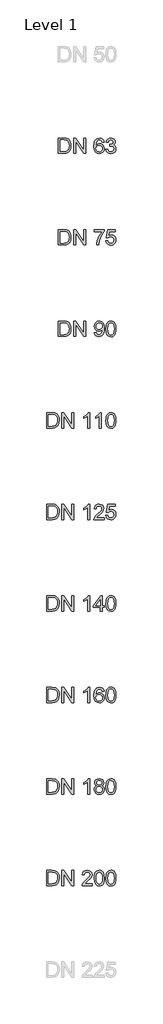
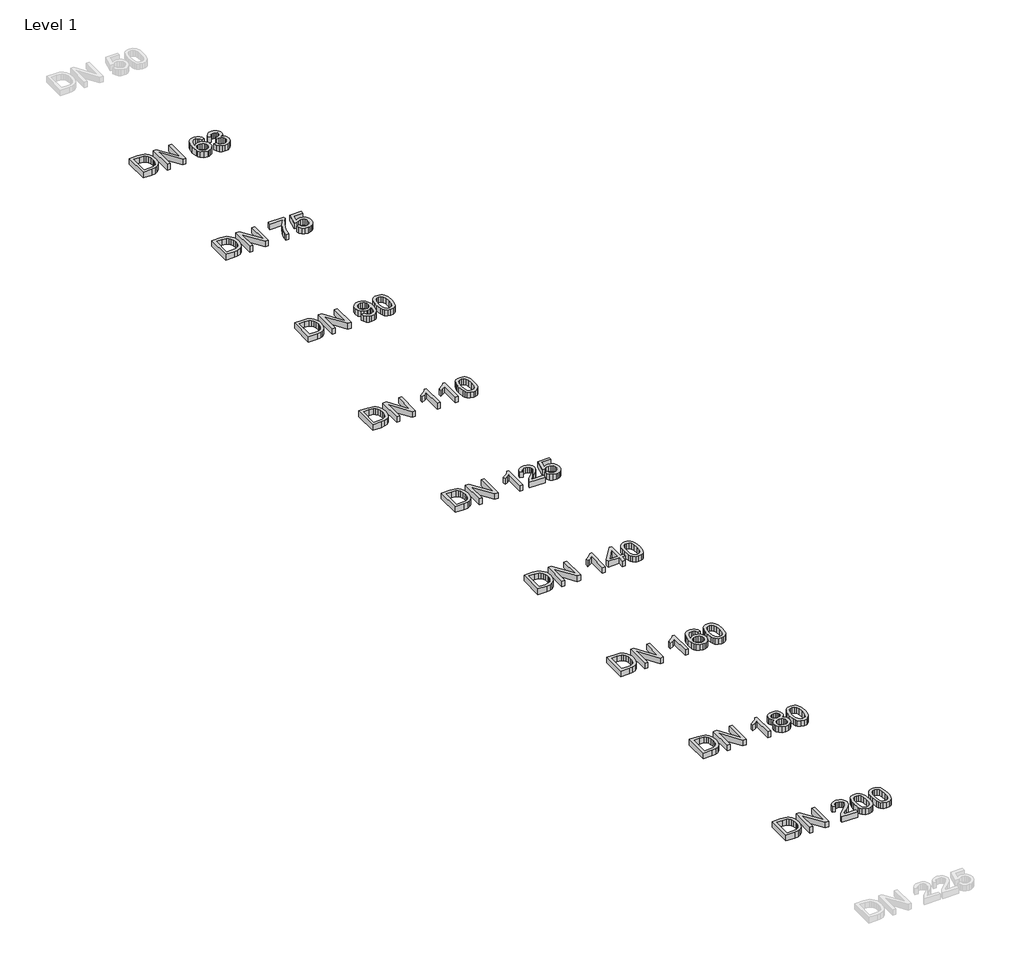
# One storey, part 12 of 26: 9 proxies.
"""IFC4 building model written with IfcOpenShell, lengths in millimetres."""

from ifc_helpers import new_model, si_unit, origin, origin_with_axes, place, context, project, spatial, polyline, outline, extrude, element, save

model = new_model("IFC4")

# Units and contexts
model_context = context("Model", 3, world=origin())
ifc_project = project(units=[si_unit("LENGTHUNIT", "METRE", prefix="MILLI")], contexts=[model_context])

# Site, building, storey
site = spatial("IfcSite", under=ifc_project)
building = spatial("IfcBuilding", under=site)
storey = spatial("IfcBuildingStorey", under=building, Name="Level 1", Elevation=0.0)

# Proxies
placement = place(None, origin())
element("IfcBuildingElementProxy", 1, Name="200mm Arial", ObjectType="200mm Arial", at=placement, inside=storey, context=model_context, shape_type="SweptSolid", body=[
    extrude(outline(polyline([(-19491.3116028, -49213.949573), (-19491.3116028, -49013.0369527), (-19422.0026349, -49013.0369527), (-19386.1464031, -49015.9309577), (-19370.1312736, -49021.5105013), (-19356.6177416, -49030.302881), (-19342.724065, -49045.606772), (-19332.8280393, -49064.6385338), (-19326.9051392, -49087.0302846), (-19324.9308391, -49112.4141423), (-19330.2773908, -49152.9547382), (-19344.0116519, -49182.2136195), (-19362.3567008, -49200.436041), (-19386.3671323, -49210.5160077), (-19418.6671715, -49213.949573), (-19491.3116028, -49213.949573)]), holes=[polyline([(-19466.1975253, -49188.8354954), (-19421.7573803, -49188.8354954), (-19389.4328156, -49185.2057264), (-19370.7934612, -49174.9540815), (-19362.0685265, -49164.0831685), (-19355.5140957, -49150.0116822), (-19351.4122114, -49132.6783089), (-19350.0449167, -49112.0217348), (-19352.7243239, -49084.6513144), (-19360.7625455, -49064.4423301), (-19372.6390025, -49050.5609162), (-19386.8331162, -49042.1732067), (-19422.4440933, -49038.1510302), (-19466.1975253, -49038.1510302), (-19466.1975253, -49188.8354954)])]), origin_with_axes(), (0.0, 0.0, 1.0), 50.0),
    extrude(outline(polyline([(-19290.3989825, -49213.949573), (-19290.3989825, -49013.0369527), (-19263.5190714, -49013.0369527), (-19158.5500754, -49172.2072292), (-19158.5500754, -49013.0369527), (-19133.4359979, -49013.0369527), (-19133.4359979, -49213.949573), (-19160.315909, -49213.949573), (-19265.284905, -49054.7302454), (-19265.284905, -49213.949573), (-19290.3989825, -49213.949573)])), origin_with_axes(), (0.0, 0.0, 1.0), 50.0),
    extrude(outline(polyline([(-18926.2448582, -49213.949573), (-18951.3589358, -49213.949573), (-18951.3589358, -49057.3789958), (-18975.1486381, -49074.3260931), (-19001.5870908, -49087.0057592), (-19001.5870908, -49063.2651077), (-18964.7743658, -49039.769711), (-18951.3037535, -49026.1948653), (-18942.431666, -49013.0369527), (-18926.2448582, -49013.0369527), (-18926.2448582, -49213.949573)])), origin_with_axes(), (0.0, 0.0, 1.0), 50.0),
    extrude(outline(polyline([(-18737.8892767, -49066.4043674), (-18763.0033542, -49069.5436271), (-18772.5192352, -49048.5988789), (-18783.9113143, -49040.7629924), (-18797.6823636, -49038.1510302), (-18820.3438945, -49044.2333458), (-18829.7800677, -49053.8411973), (-18837.4871955, -49067.066555), (-18842.6927257, -49085.7733545), (-18844.6241062, -49111.8255311), (-18834.5502709, -49100.0717013), (-18822.4776101, -49091.7882251), (-18809.0805741, -49086.8770005), (-18795.0336133, -49085.2399256), (-18771.8325221, -49089.7158232), (-18752.3593018, -49103.143516), (-18739.1523382, -49123.6590686), (-18734.750017, -49149.3985455), (-18736.8224189, -49167.3818437), (-18743.0396246, -49184.0530295), (-18752.8865994, -49198.1919608), (-18765.8483083, -49208.5784958), (-18781.3361403, -49214.9612484), (-18798.7614842, -49217.0888326), (-18827.2539447, -49211.4479754), (-18849.9461324, -49194.5254036), (-18858.6051549, -49181.4165418), (-18864.7901709, -49164.6533856), (-18869.7381838, -49120.1641897), (-18864.2444793, -49070.144501), (-18857.3773487, -49051.0667539), (-18847.7633659, -49035.9437382), (-18837.3431084, -49025.9220195), (-18825.2612505, -49018.763649), (-18796.1127338, -49013.0369527), (-18774.0766023, -49016.5808825), (-18756.4305292, -49027.2126722), (-18744.0696942, -49044.0984558), (-18737.8892767, -49066.4043674)]), holes=[polyline([(-18844.6241062, -49149.0061381), (-18838.8115707, -49170.7602267), (-18823.3605269, -49186.554627), (-18800.7235215, -49191.9747551), (-18784.1504376, -49189.1665892), (-18771.1212836, -49180.7420915), (-18762.6783918, -49167.4983397), (-18759.8640945, -49150.2324114), (-18762.6416036, -49133.6593275), (-18770.9741308, -49121.022581), (-18784.224014, -49113.0211476), (-18801.7535911, -49110.3540031), (-18818.3021495, -49113.0211476), (-18832.1406439, -49121.022581), (-18841.5032406, -49133.3527592), (-18844.6241062, -49149.0061381)])]), origin_with_axes(), (0.0, 0.0, 1.0), 50.0),
    extrude(outline(polyline([(-18712.7751992, -49115.1119436), (-18710.9296578, -49082.9529258), (-18705.3930338, -49057.3054194), (-18696.2205094, -49037.7770168), (-18683.4672669, -49023.9753106), (-18667.0413358, -49015.7715422), (-18646.8507456, -49013.0369527), (-18631.3751764, -49014.6556334), (-18617.5182879, -49019.5116758), (-18605.930005, -49027.4150073), (-18597.2602527, -49038.1755557), (-18585.4880288, -49067.9004209), (-18580.9262921, -49115.1119436), (-18582.7534393, -49147.0870203), (-18588.2348811, -49172.6732131), (-18597.3522232, -49192.2200098), (-18610.0870716, -49206.0768983), (-18626.5497909, -49214.335849), (-18646.8507456, -49217.0888326), (-18672.9458418, -49212.3063667), (-18692.7624186, -49197.9589689), (-18701.5180101, -49182.8298218), (-18707.772004, -49163.9789353), (-18712.7751992, -49115.1119436)]), holes=[polyline([(-18687.6611216, -49115.0628927), (-18684.7180657, -49154.5672876), (-18675.8888978, -49177.4311536), (-18662.7432478, -49188.3388547), (-18646.8507456, -49191.9747551), (-18630.9582434, -49188.326592), (-18617.8125935, -49177.3821026), (-18608.9834256, -49154.5059739), (-18606.0403696, -49115.0628927), (-18608.8853237, -49076.4475459), (-18617.420186, -49053.4058703), (-18630.5413105, -49041.9647402), (-18647.1450512, -49038.1510302), (-18662.8658751, -49041.5110191), (-18675.4964903, -49051.5909857), (-18684.6199638, -49076.0674012), (-18687.6611216, -49115.0628927)])]), origin_with_axes(), (0.0, 0.0, 1.0), 50.0),
])
element("IfcBuildingElementProxy", 2, Name="200mm Arial", ObjectType="200mm Arial", at=placement, inside=storey, context=model_context, shape_type="SweptSolid", body=[
    extrude(outline(polyline([(-19491.3116028, -51613.949573), (-19491.3116028, -51413.0369527), (-19422.0026349, -51413.0369527), (-19386.1464031, -51415.9309577), (-19370.1312736, -51421.5105013), (-19356.6177416, -51430.302881), (-19342.724065, -51445.606772), (-19332.8280393, -51464.6385338), (-19326.9051392, -51487.0302846), (-19324.9308391, -51512.4141423), (-19330.2773908, -51552.9547382), (-19344.0116519, -51582.2136195), (-19362.3567008, -51600.436041), (-19386.3671323, -51610.5160077), (-19418.6671715, -51613.949573), (-19491.3116028, -51613.949573)]), holes=[polyline([(-19466.1975253, -51588.8354954), (-19421.7573803, -51588.8354954), (-19389.4328156, -51585.2057264), (-19370.7934612, -51574.9540815), (-19362.0685265, -51564.0831685), (-19355.5140957, -51550.0116822), (-19351.4122114, -51532.6783089), (-19350.0449167, -51512.0217348), (-19352.7243239, -51484.6513144), (-19360.7625455, -51464.4423301), (-19372.6390025, -51450.5609162), (-19386.8331162, -51442.1732067), (-19422.4440933, -51438.1510302), (-19466.1975253, -51438.1510302), (-19466.1975253, -51588.8354954)])]), origin_with_axes(), (0.0, 0.0, 1.0), 50.0),
    extrude(outline(polyline([(-19290.3989825, -51613.949573), (-19290.3989825, -51413.0369527), (-19263.5190714, -51413.0369527), (-19158.5500754, -51572.2072292), (-19158.5500754, -51413.0369527), (-19133.4359979, -51413.0369527), (-19133.4359979, -51613.949573), (-19160.315909, -51613.949573), (-19265.284905, -51454.7302454), (-19265.284905, -51613.949573), (-19290.3989825, -51613.949573)])), origin_with_axes(), (0.0, 0.0, 1.0), 50.0),
    extrude(outline(polyline([(-18891.7130016, -51588.8354954), (-18891.7130016, -51613.949573), (-19023.5619087, -51613.949573), (-19020.8641074, -51596.6345937), (-19005.6092673, -51569.9754118), (-18974.1676195, -51540.8636832), (-18930.806595, -51499.0232377), (-18922.6764029, -51484.6022634), (-18919.9663388, -51470.5736967), (-18922.5231187, -51457.9982638), (-18930.1934583, -51447.5442838), (-18941.9840762, -51440.4993436), (-18956.9016912, -51438.1510302), (-18972.5673328, -51440.4441613), (-18984.7380955, -51447.3235546), (-18992.5923761, -51458.2496499), (-18995.3085714, -51472.6828868), (-19020.422649, -51469.5436271), (-19014.334202, -51445.2511527), (-19001.1701579, -51427.5069778), (-18981.6172299, -51416.6544589), (-18956.3621309, -51413.0369527), (-18930.9230909, -51417.0591291), (-18911.4069511, -51429.1256586), (-18898.9909337, -51447.1518763), (-18894.8522613, -51469.0531178), (-18899.3158962, -51492.8673456), (-18914.1538033, -51517.4909138), (-18950.1326624, -51551.9001431), (-18979.0236618, -51576.0577275), (-18990.3544272, -51588.8354954), (-18891.7130016, -51588.8354954)])), origin_with_axes(), (0.0, 0.0, 1.0), 50.0),
    extrude(outline(polyline([(-18866.5989241, -51515.1119436), (-18864.7533827, -51482.9529258), (-18859.2167587, -51457.3054194), (-18850.0442343, -51437.7770168), (-18837.2909918, -51423.9753106), (-18820.8650607, -51415.7715422), (-18800.6744705, -51413.0369527), (-18785.1989013, -51414.6556334), (-18771.3420128, -51419.5116758), (-18759.7537299, -51427.4150073), (-18751.0839776, -51438.1755557), (-18739.3117537, -51467.9004209), (-18734.750017, -51515.1119436), (-18736.5771642, -51547.0870203), (-18742.058606, -51572.6732131), (-18751.1759481, -51592.2200098), (-18763.9107965, -51606.0768983), (-18780.3735158, -51614.335849), (-18800.6744705, -51617.0888326), (-18826.7695667, -51612.3063667), (-18846.5861435, -51597.9589689), (-18855.341735, -51582.8298218), (-18861.5957289, -51563.9789353), (-18866.5989241, -51515.1119436)]), holes=[polyline([(-18841.4848465, -51515.0628927), (-18838.5417906, -51554.5672876), (-18829.7126227, -51577.4311536), (-18816.5669727, -51588.3388547), (-18800.6744705, -51591.9747551), (-18784.7819683, -51588.326592), (-18771.6363184, -51577.3821026), (-18762.8071505, -51554.5059739), (-18759.8640945, -51515.0628927), (-18762.7090486, -51476.4475459), (-18771.2439109, -51453.4058703), (-18784.3650354, -51441.9647402), (-18800.9687761, -51438.1510302), (-18816.6896001, -51441.5110191), (-18829.3202152, -51451.5909857), (-18838.4436887, -51476.0674012), (-18841.4848465, -51515.0628927)])]), origin_with_axes(), (0.0, 0.0, 1.0), 50.0),
    extrude(outline(polyline([(-18712.7751992, -51515.1119436), (-18710.9296578, -51482.9529258), (-18705.3930338, -51457.3054194), (-18696.2205094, -51437.7770168), (-18683.4672669, -51423.9753106), (-18667.0413358, -51415.7715422), (-18646.8507456, -51413.0369527), (-18631.3751764, -51414.6556334), (-18617.5182879, -51419.5116758), (-18605.930005, -51427.4150073), (-18597.2602527, -51438.1755557), (-18585.4880288, -51467.9004209), (-18580.9262921, -51515.1119436), (-18582.7534393, -51547.0870203), (-18588.2348811, -51572.6732131), (-18597.3522232, -51592.2200098), (-18610.0870716, -51606.0768983), (-18626.5497909, -51614.335849), (-18646.8507456, -51617.0888326), (-18672.9458418, -51612.3063667), (-18692.7624186, -51597.9589689), (-18701.5180101, -51582.8298218), (-18707.772004, -51563.9789353), (-18712.7751992, -51515.1119436)]), holes=[polyline([(-18687.6611216, -51515.0628927), (-18684.7180657, -51554.5672876), (-18675.8888978, -51577.4311536), (-18662.7432478, -51588.3388547), (-18646.8507456, -51591.9747551), (-18630.9582434, -51588.326592), (-18617.8125935, -51577.3821026), (-18608.9834256, -51554.5059739), (-18606.0403696, -51515.0628927), (-18608.8853237, -51476.4475459), (-18617.420186, -51453.4058703), (-18630.5413105, -51441.9647402), (-18647.1450512, -51438.1510302), (-18662.8658751, -51441.5110191), (-18675.4964903, -51451.5909857), (-18684.6199638, -51476.0674012), (-18687.6611216, -51515.0628927)])]), origin_with_axes(), (0.0, 0.0, 1.0), 50.0),
])
element("IfcBuildingElementProxy", 3, Name="200mm Arial", ObjectType="200mm Arial", at=placement, inside=storey, context=model_context, shape_type="SweptSolid", body=[
    extrude(outline(polyline([(-19337.4878779, -42013.949573), (-19337.4878779, -41813.0369527), (-19268.17891, -41813.0369527), (-19232.3226782, -41815.9309577), (-19216.3075487, -41821.5105013), (-19202.7940167, -41830.302881), (-19188.90034, -41845.606772), (-19179.0043144, -41864.6385338), (-19173.0814143, -41887.0302846), (-19171.1071142, -41912.4141423), (-19176.4536659, -41952.9547382), (-19190.187927, -41982.2136195), (-19208.5329759, -42000.436041), (-19232.5434074, -42010.5160077), (-19264.8434466, -42013.949573), (-19337.4878779, -42013.949573)]), holes=[polyline([(-19312.3738004, -41988.8354954), (-19267.9336553, -41988.8354954), (-19235.6090907, -41985.2057264), (-19216.9697363, -41974.9540815), (-19208.2448016, -41964.0831685), (-19201.6903707, -41950.0116822), (-19197.5884865, -41932.6783089), (-19196.2211917, -41912.0217348), (-19198.9005989, -41884.6513144), (-19206.9388205, -41864.4423301), (-19218.8152776, -41850.5609162), (-19233.0093913, -41842.1732067), (-19268.6203684, -41838.1510302), (-19312.3738004, -41838.1510302), (-19312.3738004, -41988.8354954)])]), origin_with_axes(), (0.0, 0.0, 1.0), 50.0),
    extrude(outline(polyline([(-19136.5752576, -42013.949573), (-19136.5752576, -41813.0369527), (-19109.6953465, -41813.0369527), (-19004.7263505, -41972.2072292), (-19004.7263505, -41813.0369527), (-18979.612273, -41813.0369527), (-18979.612273, -42013.949573), (-19006.4921841, -42013.949573), (-19111.4611801, -41854.7302454), (-19111.4611801, -42013.949573), (-19136.5752576, -42013.949573)])), origin_with_axes(), (0.0, 0.0, 1.0), 50.0),
    extrude(outline(polyline([(-18737.8892767, -41866.4043674), (-18763.0033542, -41869.5436271), (-18772.5192352, -41848.5988789), (-18783.9113143, -41840.7629924), (-18797.6823636, -41838.1510302), (-18820.3438945, -41844.2333458), (-18829.7800677, -41853.8411973), (-18837.4871955, -41867.066555), (-18842.6927257, -41885.7733545), (-18844.6241062, -41911.8255311), (-18834.5502709, -41900.0717013), (-18822.4776101, -41891.7882251), (-18809.0805741, -41886.8770005), (-18795.0336133, -41885.2399256), (-18771.8325221, -41889.7158232), (-18752.3593018, -41903.143516), (-18739.1523382, -41923.6590686), (-18734.750017, -41949.3985455), (-18736.8224189, -41967.3818437), (-18743.0396246, -41984.0530295), (-18752.8865994, -41998.1919608), (-18765.8483083, -42008.5784958), (-18781.3361403, -42014.9612484), (-18798.7614842, -42017.0888326), (-18827.2539447, -42011.4479754), (-18849.9461324, -41994.5254036), (-18858.6051549, -41981.4165418), (-18864.7901709, -41964.6533856), (-18869.7381838, -41920.1641897), (-18864.2444793, -41870.144501), (-18857.3773487, -41851.0667539), (-18847.7633659, -41835.9437382), (-18837.3431084, -41825.9220195), (-18825.2612505, -41818.763649), (-18796.1127338, -41813.0369527), (-18774.0766023, -41816.5808825), (-18756.4305292, -41827.2126722), (-18744.0696942, -41844.0984558), (-18737.8892767, -41866.4043674)]), holes=[polyline([(-18844.6241062, -41949.0061381), (-18838.8115707, -41970.7602267), (-18823.3605269, -41986.554627), (-18800.7235215, -41991.9747551), (-18784.1504376, -41989.1665892), (-18771.1212836, -41980.7420915), (-18762.6783918, -41967.4983397), (-18759.8640945, -41950.2324114), (-18762.6416036, -41933.6593275), (-18770.9741308, -41921.022581), (-18784.224014, -41913.0211476), (-18801.7535911, -41910.3540031), (-18818.3021495, -41913.0211476), (-18832.1406439, -41921.022581), (-18841.5032406, -41933.3527592), (-18844.6241062, -41949.0061381)])]), origin_with_axes(), (0.0, 0.0, 1.0), 50.0),
    extrude(outline(polyline([(-18712.7751992, -41960.5821582), (-18687.6611216, -41957.4428985), (-18682.0386585, -41973.2250361), (-18673.8042331, -41983.8813512), (-18662.5531754, -41989.9514041), (-18647.8808152, -41991.9747551), (-18630.6639378, -41989.1911147), (-18617.3711351, -41980.8401934), (-18608.873061, -41968.3812565), (-18606.0403696, -41953.2735692), (-18608.8485355, -41938.9323028), (-18617.2730332, -41927.3011004), (-18630.0262757, -41919.5939726), (-18645.820676, -41917.02493), (-18663.4299609, -41919.7717822), (-18660.6340577, -41894.6577047), (-18656.6118812, -41894.9520102), (-18641.5655076, -41893.1493885), (-18628.1132893, -41887.7415231), (-18618.6219339, -41878.5935242), (-18615.4581487, -41865.5705016), (-18617.7512798, -41854.7241141), (-18624.6306731, -41845.925603), (-18635.1275727, -41840.0946734), (-18648.2732227, -41838.1510302), (-18661.4433981, -41840.1130675), (-18672.2100778, -41845.9991794), (-18680.0704898, -41855.809366), (-18684.5218619, -41869.5436271), (-18709.6359395, -41866.4043674), (-18702.2415114, -41843.8532011), (-18689.0835987, -41827.0164685), (-18671.0819064, -41816.5318316), (-18649.1561395, -41813.0369527), (-18633.3678705, -41814.7598667), (-18618.8671885, -41819.9286087), (-18606.6412435, -41828.0833263), (-18597.6771856, -41838.7641669), (-18592.1773498, -41851.0698196), (-18590.3440712, -41864.0989736), (-18592.0853793, -41876.2390794), (-18597.3093036, -41887.2510138), (-18605.9422678, -41896.6320047), (-18617.9106953, -41903.87928), (-18602.1898714, -41910.2313758), (-18590.5402749, -41921.0471064), (-18583.3297878, -41935.7378608), (-18580.9262921, -41953.7150276), (-18585.7332835, -41978.191443), (-18600.1542577, -41998.645682), (-18621.9206091, -42012.478045), (-18648.763732, -42017.0888326), (-18673.0439437, -42013.1524953), (-18692.8114695, -42001.3434833), (-18706.5579934, -41983.2804773), (-18712.7751992, -41960.5821582)])), origin_with_axes(), (0.0, 0.0, 1.0), 50.0),
])
element("IfcBuildingElementProxy", 4, Name="200mm Arial", ObjectType="200mm Arial", at=placement, inside=storey, context=model_context, shape_type="SweptSolid", body=[
    extrude(outline(polyline([(-19337.4878779, -44413.949573), (-19337.4878779, -44213.0369527), (-19268.17891, -44213.0369527), (-19232.3226782, -44215.9309577), (-19216.3075487, -44221.5105013), (-19202.7940167, -44230.302881), (-19188.90034, -44245.606772), (-19179.0043144, -44264.6385338), (-19173.0814143, -44287.0302846), (-19171.1071142, -44312.4141423), (-19176.4536659, -44352.9547382), (-19190.187927, -44382.2136195), (-19208.5329759, -44400.436041), (-19232.5434074, -44410.5160077), (-19264.8434466, -44413.949573), (-19337.4878779, -44413.949573)]), holes=[polyline([(-19312.3738004, -44388.8354954), (-19267.9336553, -44388.8354954), (-19235.6090907, -44385.2057264), (-19216.9697363, -44374.9540815), (-19208.2448016, -44364.0831685), (-19201.6903707, -44350.0116822), (-19197.5884865, -44332.6783089), (-19196.2211917, -44312.0217348), (-19198.9005989, -44284.6513144), (-19206.9388205, -44264.4423301), (-19218.8152776, -44250.5609162), (-19233.0093913, -44242.1732067), (-19268.6203684, -44238.1510302), (-19312.3738004, -44238.1510302), (-19312.3738004, -44388.8354954)])]), origin_with_axes(), (0.0, 0.0, 1.0), 50.0),
    extrude(outline(polyline([(-19136.5752576, -44413.949573), (-19136.5752576, -44213.0369527), (-19109.6953465, -44213.0369527), (-19004.7263505, -44372.2072292), (-19004.7263505, -44213.0369527), (-18979.612273, -44213.0369527), (-18979.612273, -44413.949573), (-19006.4921841, -44413.949573), (-19111.4611801, -44254.7302454), (-19111.4611801, -44413.949573), (-19136.5752576, -44413.949573)])), origin_with_axes(), (0.0, 0.0, 1.0), 50.0),
    extrude(outline(polyline([(-18863.4596644, -44363.7214179), (-18838.3455868, -44360.5821582), (-18834.0536302, -44374.8375855), (-18827.0638723, -44384.5435388), (-18817.5479914, -44390.116951), (-18805.6776657, -44391.9747551), (-18785.3460541, -44387.1922892), (-18771.562742, -44374.4145212), (-18763.3467108, -44352.5868562), (-18759.7169417, -44323.4506021), (-18759.8640945, -44318.5455089), (-18768.5645037, -44329.1650358), (-18779.9504515, -44337.5772708), (-18793.2003347, -44343.0587125), (-18807.4925502, -44344.8858597), (-18830.3932044, -44340.4222249), (-18849.4556231, -44327.0313202), (-18862.3130988, -44306.3440894), (-18866.5989241, -44279.9914758), (-18862.1046324, -44252.7682081), (-18848.6217572, -44231.4310524), (-18828.3698534, -44217.6354776), (-18803.5684756, -44213.0369527), (-18784.8371506, -44215.6611776), (-18767.7858202, -44223.5338523), (-18753.5242615, -44236.2625693), (-18743.162252, -44253.4549212), (-18736.8530757, -44277.2200981), (-18734.750017, -44309.6672901), (-18736.8469444, -44344.070388), (-18743.1377265, -44370.6621249), (-18753.5671811, -44390.6442486), (-18768.0801258, -44405.2185069), (-18786.0511612, -44414.1212512), (-18806.8548881, -44417.0888326), (-18828.3269338, -44413.5878223), (-18845.4579721, -44403.0847914), (-18857.4386624, -44386.2419274), (-18863.4596644, -44363.7214179)]), holes=[polyline([(-18759.8640945, -44279.4028646), (-18762.5741586, -44262.3821909), (-18770.7043507, -44249.2855919), (-18783.3227031, -44240.9346706), (-18799.4972481, -44238.1510302), (-18816.2726671, -44241.1492685), (-18829.7126227, -44250.1439832), (-18838.5417906, -44263.9089012), (-18841.4848465, -44281.2177491), (-18838.7012061, -44296.7362379), (-18830.3502848, -44309.0541534), (-18817.241423, -44317.092375), (-18800.1839612, -44319.7717822), (-18784.1381749, -44317.092375), (-18771.2193855, -44309.0541534), (-18762.7029173, -44296.2825168), (-18759.8640945, -44279.4028646)])]), origin_with_axes(), (0.0, 0.0, 1.0), 50.0),
    extrude(outline(polyline([(-18712.7751992, -44315.1119436), (-18710.9296578, -44282.9529258), (-18705.3930338, -44257.3054194), (-18696.2205094, -44237.7770168), (-18683.4672669, -44223.9753106), (-18667.0413358, -44215.7715422), (-18646.8507456, -44213.0369527), (-18631.3751764, -44214.6556334), (-18617.5182879, -44219.5116758), (-18605.930005, -44227.4150073), (-18597.2602527, -44238.1755557), (-18585.4880288, -44267.9004209), (-18580.9262921, -44315.1119436), (-18582.7534393, -44347.0870203), (-18588.2348811, -44372.6732131), (-18597.3522232, -44392.2200098), (-18610.0870716, -44406.0768983), (-18626.5497909, -44414.335849), (-18646.8507456, -44417.0888326), (-18672.9458418, -44412.3063667), (-18692.7624186, -44397.9589689), (-18701.5180101, -44382.8298218), (-18707.772004, -44363.9789353), (-18712.7751992, -44315.1119436)]), holes=[polyline([(-18687.6611216, -44315.0628927), (-18684.7180657, -44354.5672876), (-18675.8888978, -44377.4311536), (-18662.7432478, -44388.3388547), (-18646.8507456, -44391.9747551), (-18630.9582434, -44388.326592), (-18617.8125935, -44377.3821026), (-18608.9834256, -44354.5059739), (-18606.0403696, -44315.0628927), (-18608.8853237, -44276.4475459), (-18617.420186, -44253.4058703), (-18630.5413105, -44241.9647402), (-18647.1450512, -44238.1510302), (-18662.8658751, -44241.5110191), (-18675.4964903, -44251.5909857), (-18684.6199638, -44276.0674012), (-18687.6611216, -44315.0628927)])]), origin_with_axes(), (0.0, 0.0, 1.0), 50.0),
])
element("IfcBuildingElementProxy", 5, Name="200mm Arial", ObjectType="200mm Arial", at=placement, inside=storey, context=model_context, shape_type="SweptSolid", body=[
    extrude(outline(polyline([(-19491.3116028, -45613.949573), (-19491.3116028, -45413.0369527), (-19422.0026349, -45413.0369527), (-19386.1464031, -45415.9309577), (-19370.1312736, -45421.5105013), (-19356.6177416, -45430.302881), (-19342.724065, -45445.606772), (-19332.8280393, -45464.6385338), (-19326.9051392, -45487.0302846), (-19324.9308391, -45512.4141423), (-19330.2773908, -45552.9547382), (-19344.0116519, -45582.2136195), (-19362.3567008, -45600.436041), (-19386.3671323, -45610.5160077), (-19418.6671715, -45613.949573), (-19491.3116028, -45613.949573)]), holes=[polyline([(-19466.1975253, -45588.8354954), (-19421.7573803, -45588.8354954), (-19389.4328156, -45585.2057264), (-19370.7934612, -45574.9540815), (-19362.0685265, -45564.0831685), (-19355.5140957, -45550.0116822), (-19351.4122114, -45532.6783089), (-19350.0449167, -45512.0217348), (-19352.7243239, -45484.6513144), (-19360.7625455, -45464.4423301), (-19372.6390025, -45450.5609162), (-19386.8331162, -45442.1732067), (-19422.4440933, -45438.1510302), (-19466.1975253, -45438.1510302), (-19466.1975253, -45588.8354954)])]), origin_with_axes(), (0.0, 0.0, 1.0), 50.0),
    extrude(outline(polyline([(-19290.3989825, -45613.949573), (-19290.3989825, -45413.0369527), (-19263.5190714, -45413.0369527), (-19158.5500754, -45572.2072292), (-19158.5500754, -45413.0369527), (-19133.4359979, -45413.0369527), (-19133.4359979, -45613.949573), (-19160.315909, -45613.949573), (-19265.284905, -45454.7302454), (-19265.284905, -45613.949573), (-19290.3989825, -45613.949573)])), origin_with_axes(), (0.0, 0.0, 1.0), 50.0),
    extrude(outline(polyline([(-18926.2448582, -45613.949573), (-18951.3589358, -45613.949573), (-18951.3589358, -45457.3789958), (-18975.1486381, -45474.3260931), (-19001.5870908, -45487.0057592), (-19001.5870908, -45463.2651077), (-18964.7743658, -45439.769711), (-18951.3037535, -45426.1948653), (-18942.431666, -45413.0369527), (-18926.2448582, -45413.0369527), (-18926.2448582, -45613.949573)])), origin_with_axes(), (0.0, 0.0, 1.0), 50.0),
    extrude(outline(polyline([(-18772.4211333, -45613.949573), (-18797.5352108, -45613.949573), (-18797.5352108, -45457.3789958), (-18821.3249132, -45474.3260931), (-18847.7633659, -45487.0057592), (-18847.7633659, -45463.2651077), (-18810.9506409, -45439.769711), (-18797.4800285, -45426.1948653), (-18788.6079411, -45413.0369527), (-18772.4211333, -45413.0369527), (-18772.4211333, -45613.949573)])), origin_with_axes(), (0.0, 0.0, 1.0), 50.0),
    extrude(outline(polyline([(-18712.7751992, -45515.1119436), (-18710.9296578, -45482.9529258), (-18705.3930338, -45457.3054194), (-18696.2205094, -45437.7770168), (-18683.4672669, -45423.9753106), (-18667.0413358, -45415.7715422), (-18646.8507456, -45413.0369527), (-18631.3751764, -45414.6556334), (-18617.5182879, -45419.5116758), (-18605.930005, -45427.4150073), (-18597.2602527, -45438.1755557), (-18585.4880288, -45467.9004209), (-18580.9262921, -45515.1119436), (-18582.7534393, -45547.0870203), (-18588.2348811, -45572.6732131), (-18597.3522232, -45592.2200098), (-18610.0870716, -45606.0768983), (-18626.5497909, -45614.335849), (-18646.8507456, -45617.0888326), (-18672.9458418, -45612.3063667), (-18692.7624186, -45597.9589689), (-18701.5180101, -45582.8298218), (-18707.772004, -45563.9789353), (-18712.7751992, -45515.1119436)]), holes=[polyline([(-18687.6611216, -45515.0628927), (-18684.7180657, -45554.5672876), (-18675.8888978, -45577.4311536), (-18662.7432478, -45588.3388547), (-18646.8507456, -45591.9747551), (-18630.9582434, -45588.326592), (-18617.8125935, -45577.3821026), (-18608.9834256, -45554.5059739), (-18606.0403696, -45515.0628927), (-18608.8853237, -45476.4475459), (-18617.420186, -45453.4058703), (-18630.5413105, -45441.9647402), (-18647.1450512, -45438.1510302), (-18662.8658751, -45441.5110191), (-18675.4964903, -45451.5909857), (-18684.6199638, -45476.0674012), (-18687.6611216, -45515.0628927)])]), origin_with_axes(), (0.0, 0.0, 1.0), 50.0),
])
element("IfcBuildingElementProxy", 6, Name="200mm Arial", ObjectType="200mm Arial", at=placement, inside=storey, context=model_context, shape_type="SweptSolid", body=[
    extrude(outline(polyline([(-19491.3116028, -46813.949573), (-19491.3116028, -46613.0369527), (-19422.0026349, -46613.0369527), (-19386.1464031, -46615.9309577), (-19370.1312736, -46621.5105013), (-19356.6177416, -46630.302881), (-19342.724065, -46645.606772), (-19332.8280393, -46664.6385338), (-19326.9051392, -46687.0302846), (-19324.9308391, -46712.4141423), (-19330.2773908, -46752.9547382), (-19344.0116519, -46782.2136195), (-19362.3567008, -46800.436041), (-19386.3671323, -46810.5160077), (-19418.6671715, -46813.949573), (-19491.3116028, -46813.949573)]), holes=[polyline([(-19466.1975253, -46788.8354954), (-19421.7573803, -46788.8354954), (-19389.4328156, -46785.2057264), (-19370.7934612, -46774.9540815), (-19362.0685265, -46764.0831685), (-19355.5140957, -46750.0116822), (-19351.4122114, -46732.6783089), (-19350.0449167, -46712.0217348), (-19352.7243239, -46684.6513144), (-19360.7625455, -46664.4423301), (-19372.6390025, -46650.5609162), (-19386.8331162, -46642.1732067), (-19422.4440933, -46638.1510302), (-19466.1975253, -46638.1510302), (-19466.1975253, -46788.8354954)])]), origin_with_axes(), (0.0, 0.0, 1.0), 50.0),
    extrude(outline(polyline([(-19290.3989825, -46813.949573), (-19290.3989825, -46613.0369527), (-19263.5190714, -46613.0369527), (-19158.5500754, -46772.2072292), (-19158.5500754, -46613.0369527), (-19133.4359979, -46613.0369527), (-19133.4359979, -46813.949573), (-19160.315909, -46813.949573), (-19265.284905, -46654.7302454), (-19265.284905, -46813.949573), (-19290.3989825, -46813.949573)])), origin_with_axes(), (0.0, 0.0, 1.0), 50.0),
    extrude(outline(polyline([(-18926.2448582, -46813.949573), (-18951.3589358, -46813.949573), (-18951.3589358, -46657.3789958), (-18975.1486381, -46674.3260931), (-19001.5870908, -46687.0057592), (-19001.5870908, -46663.2651077), (-18964.7743658, -46639.769711), (-18951.3037535, -46626.1948653), (-18942.431666, -46613.0369527), (-18926.2448582, -46613.0369527), (-18926.2448582, -46813.949573)])), origin_with_axes(), (0.0, 0.0, 1.0), 50.0),
    extrude(outline(polyline([(-18737.8892767, -46788.8354954), (-18737.8892767, -46813.949573), (-18869.7381838, -46813.949573), (-18867.0403825, -46796.6345937), (-18851.7855424, -46769.9754118), (-18820.3438945, -46740.8636832), (-18776.98287, -46699.0232377), (-18768.852678, -46684.6022634), (-18766.1426139, -46670.5736967), (-18768.6993938, -46657.9982638), (-18776.3697334, -46647.5442838), (-18788.1603513, -46640.4993436), (-18803.0779662, -46638.1510302), (-18818.7436079, -46640.4441613), (-18830.9143705, -46647.3235546), (-18838.7686511, -46658.2496499), (-18841.4848465, -46672.6828868), (-18866.5989241, -46669.5436271), (-18860.510477, -46645.2511527), (-18847.346433, -46627.5069778), (-18827.7935049, -46616.6544589), (-18802.538406, -46613.0369527), (-18777.099366, -46617.0591291), (-18757.5832262, -46629.1256586), (-18745.1672088, -46647.1518763), (-18741.0285364, -46669.0531178), (-18745.4921713, -46692.8673456), (-18760.3300784, -46717.4909138), (-18796.3089375, -46751.9001431), (-18825.1999369, -46776.0577275), (-18836.5307023, -46788.8354954), (-18737.8892767, -46788.8354954)])), origin_with_axes(), (0.0, 0.0, 1.0), 50.0),
    extrude(outline(polyline([(-18712.7751992, -46760.5821582), (-18687.6611216, -46757.4428985), (-18683.0503339, -46772.5199289), (-18675.005981, -46783.3172655), (-18663.5648509, -46789.8103827), (-18648.763732, -46791.9747551), (-18630.7620397, -46788.9642541), (-18617.2730332, -46779.9327511), (-18608.8485355, -46765.9225785), (-18606.0403696, -46747.9760685), (-18608.6707259, -46731.0780222), (-18616.5617947, -46718.1531014), (-18629.7748897, -46709.9493329), (-18648.3713245, -46707.2147434), (-18670.4197188, -46711.5802764), (-18684.5218619, -46722.9110419), (-18709.6359395, -46719.7717822), (-18687.6611216, -46616.1762123), (-18590.3440712, -46616.1762123), (-18590.3440712, -46641.2902899), (-18667.3540355, -46641.2902899), (-18678.0961897, -46696.619742), (-18660.1558111, -46685.7304349), (-18641.3570412, -46682.1006659), (-18617.8923012, -46686.601089), (-18598.4129496, -46700.1023582), (-18585.2979565, -46720.6792244), (-18580.9262921, -46746.4064386), (-18584.8626294, -46771.5205162), (-18596.6716415, -46793.0048247), (-18607.1072274, -46803.5415782), (-18619.2841214, -46811.0678307), (-18633.2023236, -46815.5835821), (-18648.8618339, -46817.0888326), (-18673.5283216, -46813.2199403), (-18693.1793515, -46801.6132634), (-18706.6499639, -46783.6177025), (-18712.7751992, -46760.5821582)])), origin_with_axes(), (0.0, 0.0, 1.0), 50.0),
])
element("IfcBuildingElementProxy", 7, Name="200mm Arial", ObjectType="200mm Arial", at=placement, inside=storey, context=model_context, shape_type="SweptSolid", body=[
    extrude(outline(polyline([(-19491.3116028, -48013.949573), (-19491.3116028, -47813.0369527), (-19422.0026349, -47813.0369527), (-19386.1464031, -47815.9309577), (-19370.1312736, -47821.5105013), (-19356.6177416, -47830.302881), (-19342.724065, -47845.606772), (-19332.8280393, -47864.6385338), (-19326.9051392, -47887.0302846), (-19324.9308391, -47912.4141423), (-19330.2773908, -47952.9547382), (-19344.0116519, -47982.2136195), (-19362.3567008, -48000.436041), (-19386.3671323, -48010.5160077), (-19418.6671715, -48013.949573), (-19491.3116028, -48013.949573)]), holes=[polyline([(-19466.1975253, -47988.8354954), (-19421.7573803, -47988.8354954), (-19389.4328156, -47985.2057264), (-19370.7934612, -47974.9540815), (-19362.0685265, -47964.0831685), (-19355.5140957, -47950.0116822), (-19351.4122114, -47932.6783089), (-19350.0449167, -47912.0217348), (-19352.7243239, -47884.6513144), (-19360.7625455, -47864.4423301), (-19372.6390025, -47850.5609162), (-19386.8331162, -47842.1732067), (-19422.4440933, -47838.1510302), (-19466.1975253, -47838.1510302), (-19466.1975253, -47988.8354954)])]), origin_with_axes(), (0.0, 0.0, 1.0), 50.0),
    extrude(outline(polyline([(-19290.3989825, -48013.949573), (-19290.3989825, -47813.0369527), (-19263.5190714, -47813.0369527), (-19158.5500754, -47972.2072292), (-19158.5500754, -47813.0369527), (-19133.4359979, -47813.0369527), (-19133.4359979, -48013.949573), (-19160.315909, -48013.949573), (-19265.284905, -47854.7302454), (-19265.284905, -48013.949573), (-19290.3989825, -48013.949573)])), origin_with_axes(), (0.0, 0.0, 1.0), 50.0),
    extrude(outline(polyline([(-18926.2448582, -48013.949573), (-18951.3589358, -48013.949573), (-18951.3589358, -47857.3789958), (-18975.1486381, -47874.3260931), (-19001.5870908, -47887.0057592), (-19001.5870908, -47863.2651077), (-18964.7743658, -47839.769711), (-18951.3037535, -47826.1948653), (-18942.431666, -47813.0369527), (-18926.2448582, -47813.0369527), (-18926.2448582, -48013.949573)])), origin_with_axes(), (0.0, 0.0, 1.0), 50.0),
    extrude(outline(polyline([(-18784.9781721, -48013.949573), (-18784.9781721, -47966.8606776), (-18876.0167031, -47966.8606776), (-18876.0167031, -47941.7466), (-18778.6996527, -47816.1762123), (-18759.8640945, -47816.1762123), (-18759.8640945, -47941.7466), (-18734.750017, -47941.7466), (-18734.750017, -47966.8606776), (-18759.8640945, -47966.8606776), (-18759.8640945, -48013.949573), (-18784.9781721, -48013.949573)]), holes=[polyline([(-18784.9781721, -47941.7466), (-18784.9781721, -47864.1480245), (-18845.1146156, -47941.7466), (-18784.9781721, -47941.7466)])]), origin_with_axes(), (0.0, 0.0, 1.0), 50.0),
    extrude(outline(polyline([(-18712.7751992, -47915.1119436), (-18710.9296578, -47882.9529258), (-18705.3930338, -47857.3054194), (-18696.2205094, -47837.7770168), (-18683.4672669, -47823.9753106), (-18667.0413358, -47815.7715422), (-18646.8507456, -47813.0369527), (-18631.3751764, -47814.6556334), (-18617.5182879, -47819.5116758), (-18605.930005, -47827.4150073), (-18597.2602527, -47838.1755557), (-18585.4880288, -47867.9004209), (-18580.9262921, -47915.1119436), (-18582.7534393, -47947.0870203), (-18588.2348811, -47972.6732131), (-18597.3522232, -47992.2200098), (-18610.0870716, -48006.0768983), (-18626.5497909, -48014.335849), (-18646.8507456, -48017.0888326), (-18672.9458418, -48012.3063667), (-18692.7624186, -47997.9589689), (-18701.5180101, -47982.8298218), (-18707.772004, -47963.9789353), (-18712.7751992, -47915.1119436)]), holes=[polyline([(-18687.6611216, -47915.0628927), (-18684.7180657, -47954.5672876), (-18675.8888978, -47977.4311536), (-18662.7432478, -47988.3388547), (-18646.8507456, -47991.9747551), (-18630.9582434, -47988.326592), (-18617.8125935, -47977.3821026), (-18608.9834256, -47954.5059739), (-18606.0403696, -47915.0628927), (-18608.8853237, -47876.4475459), (-18617.420186, -47853.4058703), (-18630.5413105, -47841.9647402), (-18647.1450512, -47838.1510302), (-18662.8658751, -47841.5110191), (-18675.4964903, -47851.5909857), (-18684.6199638, -47876.0674012), (-18687.6611216, -47915.0628927)])]), origin_with_axes(), (0.0, 0.0, 1.0), 50.0),
])
element("IfcBuildingElementProxy", 8, Name="200mm Arial", ObjectType="200mm Arial", at=placement, inside=storey, context=model_context, shape_type="SweptSolid", body=[
    extrude(outline(polyline([(-19491.3116028, -50413.949573), (-19491.3116028, -50213.0369527), (-19422.0026349, -50213.0369527), (-19386.1464031, -50215.9309577), (-19370.1312736, -50221.5105013), (-19356.6177416, -50230.302881), (-19342.724065, -50245.606772), (-19332.8280393, -50264.6385338), (-19326.9051392, -50287.0302846), (-19324.9308391, -50312.4141423), (-19330.2773908, -50352.9547382), (-19344.0116519, -50382.2136195), (-19362.3567008, -50400.436041), (-19386.3671323, -50410.5160077), (-19418.6671715, -50413.949573), (-19491.3116028, -50413.949573)]), holes=[polyline([(-19466.1975253, -50388.8354954), (-19421.7573803, -50388.8354954), (-19389.4328156, -50385.2057264), (-19370.7934612, -50374.9540815), (-19362.0685265, -50364.0831685), (-19355.5140957, -50350.0116822), (-19351.4122114, -50332.6783089), (-19350.0449167, -50312.0217348), (-19352.7243239, -50284.6513144), (-19360.7625455, -50264.4423301), (-19372.6390025, -50250.5609162), (-19386.8331162, -50242.1732067), (-19422.4440933, -50238.1510302), (-19466.1975253, -50238.1510302), (-19466.1975253, -50388.8354954)])]), origin_with_axes(), (0.0, 0.0, 1.0), 50.0),
    extrude(outline(polyline([(-19290.3989825, -50413.949573), (-19290.3989825, -50213.0369527), (-19263.5190714, -50213.0369527), (-19158.5500754, -50372.2072292), (-19158.5500754, -50213.0369527), (-19133.4359979, -50213.0369527), (-19133.4359979, -50413.949573), (-19160.315909, -50413.949573), (-19265.284905, -50254.7302454), (-19265.284905, -50413.949573), (-19290.3989825, -50413.949573)])), origin_with_axes(), (0.0, 0.0, 1.0), 50.0),
    extrude(outline(polyline([(-18926.2448582, -50413.949573), (-18951.3589358, -50413.949573), (-18951.3589358, -50257.3789958), (-18975.1486381, -50274.3260931), (-19001.5870908, -50287.0057592), (-19001.5870908, -50263.2651077), (-18964.7743658, -50239.769711), (-18951.3037535, -50226.1948653), (-18942.431666, -50213.0369527), (-18926.2448582, -50213.0369527), (-18926.2448582, -50413.949573)])), origin_with_axes(), (0.0, 0.0, 1.0), 50.0),
    extrude(outline(polyline([(-18830.0069283, -50303.2906688), (-18843.4530152, -50296.6687929), (-18852.8891884, -50287.6924722), (-18858.4626006, -50276.5456478), (-18860.3204047, -50263.4122605), (-18856.2737027, -50243.7796247), (-18844.1335969, -50227.5560287), (-18825.2612505, -50216.6667217), (-18801.0178271, -50213.0369527), (-18776.6272508, -50216.7525608), (-18757.5096498, -50227.8993853), (-18745.1488147, -50244.3804986), (-18741.0285364, -50264.0989736), (-18742.861815, -50276.8092965), (-18748.3616508, -50287.7660486), (-18757.5893575, -50296.687187), (-18770.6062488, -50303.2906688), (-18755.1490736, -50311.255314), (-18743.8980159, -50322.9846183), (-18737.0370167, -50337.9144959), (-18734.750017, -50355.4808612), (-18739.2872283, -50379.4912927), (-18752.8988621, -50399.332395), (-18773.9171868, -50412.6497232), (-18800.6744705, -50417.0888326), (-18827.4317543, -50412.6313291), (-18848.450079, -50399.2588186), (-18862.0617128, -50379.227644), (-18866.5989241, -50354.7941481), (-18864.2199538, -50336.5472012), (-18857.0830431, -50321.5376158), (-18845.5560739, -50310.2804267), (-18830.0069283, -50303.2906688)]), holes=[polyline([(-18835.2063271, -50264.1480245), (-18832.9806411, -50275.110908), (-18826.3035829, -50283.8664995), (-18815.3713562, -50289.6054586), (-18800.3801649, -50291.518445), (-18785.7384615, -50289.6177213), (-18774.9717818, -50283.9155504), (-18768.3499059, -50275.4542645), (-18766.1426139, -50265.276196), (-18768.4234823, -50254.7118513), (-18775.2660874, -50245.974654), (-18786.1799199, -50240.1069361), (-18800.6744705, -50238.1510302), (-18815.2609916, -50240.0640166), (-18826.1564301, -50245.8029757), (-18832.9438529, -50254.2152106), (-18835.2063271, -50264.1480245)]), polyline([(-18841.4848465, -50353.9112313), (-18837.2909918, -50372.8203659), (-18831.4845876, -50380.9321639), (-18822.4530846, -50386.97156), (-18800.4782668, -50391.9747551), (-18783.3840168, -50389.3443988), (-18770.5571979, -50381.45333), (-18762.5373704, -50369.5032966), (-18759.8640945, -50354.6960463), (-18762.6232095, -50339.6374099), (-18770.9005544, -50327.4237277), (-18784.0216789, -50319.3303238), (-18801.3121327, -50316.6325225), (-18818.1672594, -50319.2935356), (-18830.8653196, -50327.2765749), (-18838.8299648, -50339.2572652), (-18841.4848465, -50353.9112313)])]), origin_with_axes(), (0.0, 0.0, 1.0), 50.0),
    extrude(outline(polyline([(-18712.7751992, -50315.1119436), (-18710.9296578, -50282.9529258), (-18705.3930338, -50257.3054194), (-18696.2205094, -50237.7770168), (-18683.4672669, -50223.9753106), (-18667.0413358, -50215.7715422), (-18646.8507456, -50213.0369527), (-18631.3751764, -50214.6556334), (-18617.5182879, -50219.5116758), (-18605.930005, -50227.4150073), (-18597.2602527, -50238.1755557), (-18585.4880288, -50267.9004209), (-18580.9262921, -50315.1119436), (-18582.7534393, -50347.0870203), (-18588.2348811, -50372.6732131), (-18597.3522232, -50392.2200098), (-18610.0870716, -50406.0768983), (-18626.5497909, -50414.335849), (-18646.8507456, -50417.0888326), (-18672.9458418, -50412.3063667), (-18692.7624186, -50397.9589689), (-18701.5180101, -50382.8298218), (-18707.772004, -50363.9789353), (-18712.7751992, -50315.1119436)]), holes=[polyline([(-18687.6611216, -50315.0628927), (-18684.7180657, -50354.5672876), (-18675.8888978, -50377.4311536), (-18662.7432478, -50388.3388547), (-18646.8507456, -50391.9747551), (-18630.9582434, -50388.326592), (-18617.8125935, -50377.3821026), (-18608.9834256, -50354.5059739), (-18606.0403696, -50315.0628927), (-18608.8853237, -50276.4475459), (-18617.420186, -50253.4058703), (-18630.5413105, -50241.9647402), (-18647.1450512, -50238.1510302), (-18662.8658751, -50241.5110191), (-18675.4964903, -50251.5909857), (-18684.6199638, -50276.0674012), (-18687.6611216, -50315.0628927)])]), origin_with_axes(), (0.0, 0.0, 1.0), 50.0),
])
element("IfcBuildingElementProxy", 9, Name="200mm Arial", ObjectType="200mm Arial", at=placement, inside=storey, context=model_context, shape_type="SweptSolid", body=[
    extrude(outline(polyline([(-19337.4878779, -43213.949573), (-19337.4878779, -43013.0369527), (-19268.17891, -43013.0369527), (-19232.3226782, -43015.9309577), (-19216.3075487, -43021.5105013), (-19202.7940167, -43030.302881), (-19188.90034, -43045.606772), (-19179.0043144, -43064.6385338), (-19173.0814143, -43087.0302846), (-19171.1071142, -43112.4141423), (-19176.4536659, -43152.9547382), (-19190.187927, -43182.2136195), (-19208.5329759, -43200.436041), (-19232.5434074, -43210.5160077), (-19264.8434466, -43213.949573), (-19337.4878779, -43213.949573)]), holes=[polyline([(-19312.3738004, -43188.8354954), (-19267.9336553, -43188.8354954), (-19235.6090907, -43185.2057264), (-19216.9697363, -43174.9540815), (-19208.2448016, -43164.0831685), (-19201.6903707, -43150.0116822), (-19197.5884865, -43132.6783089), (-19196.2211917, -43112.0217348), (-19198.9005989, -43084.6513144), (-19206.9388205, -43064.4423301), (-19218.8152776, -43050.5609162), (-19233.0093913, -43042.1732067), (-19268.6203684, -43038.1510302), (-19312.3738004, -43038.1510302), (-19312.3738004, -43188.8354954)])]), origin_with_axes(), (0.0, 0.0, 1.0), 50.0),
    extrude(outline(polyline([(-19136.5752576, -43213.949573), (-19136.5752576, -43013.0369527), (-19109.6953465, -43013.0369527), (-19004.7263505, -43172.2072292), (-19004.7263505, -43013.0369527), (-18979.612273, -43013.0369527), (-18979.612273, -43213.949573), (-19006.4921841, -43213.949573), (-19111.4611801, -43054.7302454), (-19111.4611801, -43213.949573), (-19136.5752576, -43213.949573)])), origin_with_axes(), (0.0, 0.0, 1.0), 50.0),
    extrude(outline(polyline([(-18866.5989241, -43041.2902899), (-18866.5989241, -43016.1762123), (-18734.750017, -43016.1762123), (-18734.750017, -43036.4832985), (-18753.5426556, -43060.2668695), (-18772.1513532, -43090.5129008), (-18788.5650215, -43124.4622776), (-18800.7725724, -43159.3558849), (-18810.0922496, -43213.949573), (-18835.2063271, -43213.949573), (-18832.4901318, -43188.0629432), (-18825.2244623, -43157.2957457), (-18813.6055227, -43124.6830068), (-18797.8295164, -43093.2597531), (-18779.4108912, -43064.8531317), (-18759.8640945, -43041.2902899), (-18866.5989241, -43041.2902899)])), origin_with_axes(), (0.0, 0.0, 1.0), 50.0),
    extrude(outline(polyline([(-18712.7751992, -43160.5821582), (-18687.6611216, -43157.4428985), (-18683.0503339, -43172.5199289), (-18675.005981, -43183.3172655), (-18663.5648509, -43189.8103827), (-18648.763732, -43191.9747551), (-18630.7620397, -43188.9642541), (-18617.2730332, -43179.9327511), (-18608.8485355, -43165.9225785), (-18606.0403696, -43147.9760685), (-18608.6707259, -43131.0780222), (-18616.5617947, -43118.1531014), (-18629.7748897, -43109.9493329), (-18648.3713245, -43107.2147434), (-18670.4197188, -43111.5802764), (-18684.5218619, -43122.9110419), (-18709.6359395, -43119.7717822), (-18687.6611216, -43016.1762123), (-18590.3440712, -43016.1762123), (-18590.3440712, -43041.2902899), (-18667.3540355, -43041.2902899), (-18678.0961897, -43096.619742), (-18660.1558111, -43085.7304349), (-18641.3570412, -43082.1006659), (-18617.8923012, -43086.601089), (-18598.4129496, -43100.1023582), (-18585.2979565, -43120.6792244), (-18580.9262921, -43146.4064386), (-18584.8626294, -43171.5205162), (-18596.6716415, -43193.0048247), (-18607.1072274, -43203.5415782), (-18619.2841214, -43211.0678307), (-18633.2023236, -43215.5835821), (-18648.8618339, -43217.0888326), (-18673.5283216, -43213.2199403), (-18693.1793515, -43201.6132634), (-18706.6499639, -43183.6177025), (-18712.7751992, -43160.5821582)])), origin_with_axes(), (0.0, 0.0, 1.0), 50.0),
])

save(model, "model.ifc")
